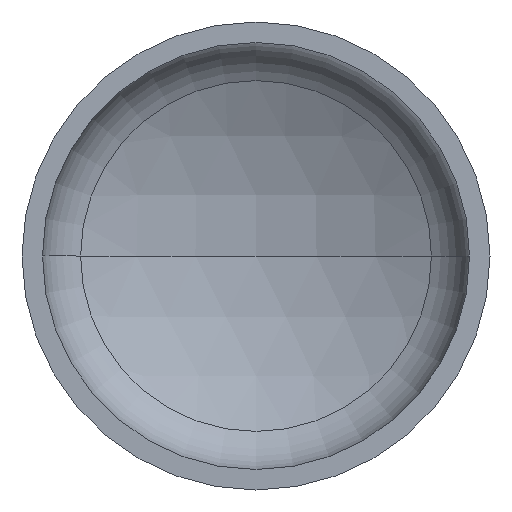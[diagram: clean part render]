
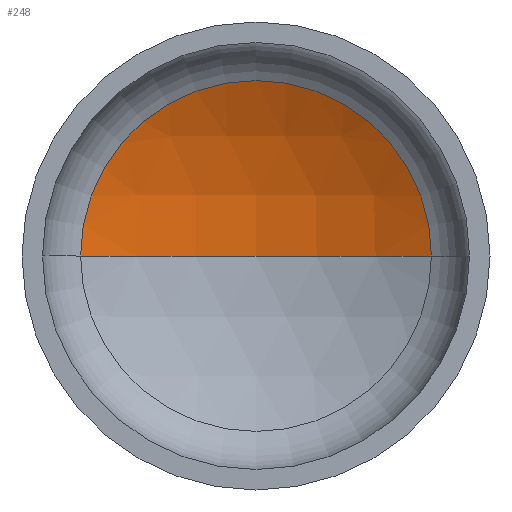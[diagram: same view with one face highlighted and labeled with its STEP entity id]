
A CAD part, front view. The second image highlights one B-rep face of the part: STEP entity #248.
In plain terms, the highlighted spherical face has radius 1280 mm.
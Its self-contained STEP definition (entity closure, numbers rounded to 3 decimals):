
#8 = AXIS2_PLACEMENT_3D ( 'NONE', #381, #166, #332 ) ;
#9 = AXIS2_PLACEMENT_3D ( 'NONE', #242, #399, #267 ) ;
#21 = EDGE_LOOP ( 'NONE', ( #101, #24, #84 ) ) ;
#24 = ORIENTED_EDGE ( 'NONE', *, *, #362, .T. ) ;
#25 = AXIS2_PLACEMENT_3D ( 'NONE', #193, #403, #136 ) ;
#33 = CIRCLE ( 'NONE', #8, 1280. ) ;
#34 = VERTEX_POINT ( 'NONE', #277 ) ;
#35 = VERTEX_POINT ( 'NONE', #256 ) ;
#37 = AXIS2_PLACEMENT_3D ( 'NONE', #103, #87, #80 ) ;
#75 = CIRCLE ( 'NONE', #9, 1280. ) ;
#80 = DIRECTION ( 'NONE',  ( 1., 0., 0. ) ) ;
#84 = ORIENTED_EDGE ( 'NONE', *, *, #207, .T. ) ;
#87 = DIRECTION ( 'NONE',  ( 0., -1., 0. ) ) ;
#101 = ORIENTED_EDGE ( 'NONE', *, *, #367, .F. ) ;
#103 = CARTESIAN_POINT ( 'NONE',  ( 0., 336.436, 0. ) ) ;
#112 = VERTEX_POINT ( 'NONE', #303 ) ;
#136 = DIRECTION ( 'NONE',  ( -1., 0., 0. ) ) ;
#166 = DIRECTION ( 'NONE',  ( 0., 0., 1. ) ) ;
#193 = CARTESIAN_POINT ( 'NONE',  ( 0., -794.33, 0. ) ) ;
#207 = EDGE_CURVE ( 'NONE', #34, #112, #235, .T. ) ;
#228 = SPHERICAL_SURFACE ( 'NONE', #25, 1280. ) ;
#235 = CIRCLE ( 'NONE', #37, 599.807 ) ;
#242 = CARTESIAN_POINT ( 'NONE',  ( 0., -794.33, 0. ) ) ;
#248 = ADVANCED_FACE ( 'NONE', ( #274 ), #228, .F. ) ;
#256 = CARTESIAN_POINT ( 'NONE',  ( 0., 485.67, 0. ) ) ;
#267 = DIRECTION ( 'NONE',  ( -1., 0., 0. ) ) ;
#274 = FACE_OUTER_BOUND ( 'NONE', #21, .T. ) ;
#277 = CARTESIAN_POINT ( 'NONE',  ( 599.807, 336.436, 0. ) ) ;
#303 = CARTESIAN_POINT ( 'NONE',  ( -599.807, 336.436, 0. ) ) ;
#332 = DIRECTION ( 'NONE',  ( 1., 0., 0. ) ) ;
#362 = EDGE_CURVE ( 'NONE', #35, #34, #75, .T. ) ;
#367 = EDGE_CURVE ( 'NONE', #35, #112, #33, .T. ) ;
#381 = CARTESIAN_POINT ( 'NONE',  ( 0., -794.33, 0. ) ) ;
#399 = DIRECTION ( 'NONE',  ( 0., 0., -1. ) ) ;
#403 = DIRECTION ( 'NONE',  ( 0., 0., -1. ) ) ;
